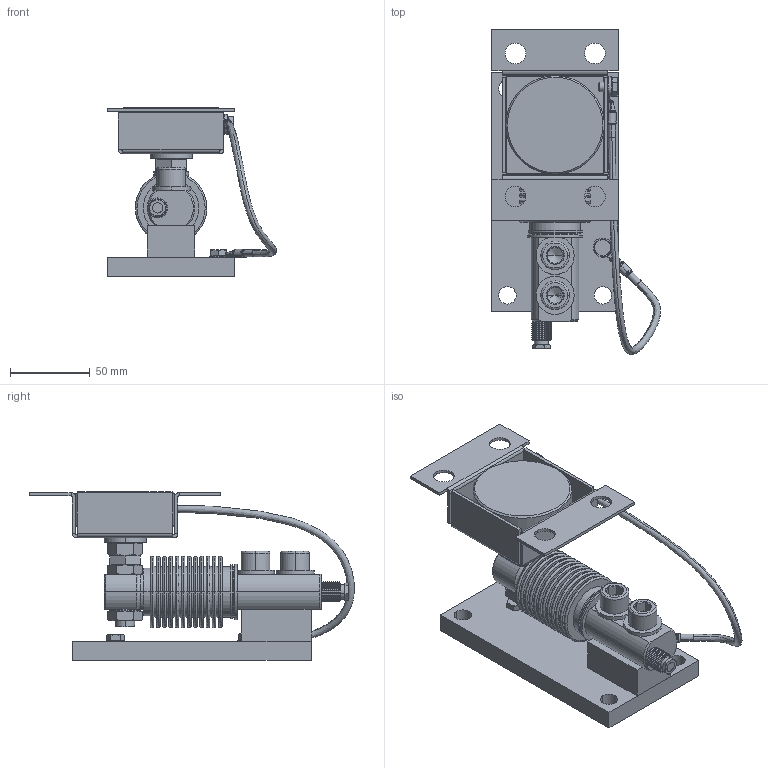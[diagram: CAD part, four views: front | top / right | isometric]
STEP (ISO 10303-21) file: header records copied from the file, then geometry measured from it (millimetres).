
FILE_DESCRIPTION((''),'1');
FILE_NAME('LMLAF_zinc-plated.step','2021-03-09T08:19:33',(''),(''),'','','');
FILE_SCHEMA(('AUTOMOTIVE_DESIGN { 1 0 10303 214 1 1 1 1 }'));
Products named in the file (26): LMLAF zinc-plated; LMLAF part 03; LMLAF part 04; LMLAF part 06; LMLAF cable 01; LMLAF part 07; LMLAF cable 02; LMLAF screw 01; LMLAF screw 02; LMLAF part 08; LMLAF part 09; LMLAF nut 01; LMLAF part 10; LMLAF base 01; LMLAF screw 03; LMLAF screw 04; LMLAF nut 03; LMLAF load cell 01; LMLAF body 01; LMLAF cable gland 01; LMLAF screw 05; LMLAF part 11; LMLAF screw 06; LMLAF part 12
Assembly tree (32 placements, depth 4):
  LMLAF zinc-plated
    LMLAF zinc-plated
    LMLAF part 07
      LMLAF part 03
        LMLAF part 04
        LMLAF part 06
        LMLAF cable 01
      LMLAF cable 02
      LMLAF part 03
        LMLAF part 04
        LMLAF part 06
        LMLAF cable 01
    LMLAF screw 01  x2
    LMLAF screw 02
    LMLAF part 08
    LMLAF part 09
      LMLAF nut 01
      LMLAF part 10
      LMLAF base 01
    LMLAF screw 03  x2
    LMLAF screw 04  x2
    LMLAF nut 03  x2
    LMLAF load cell 01
      LMLAF body 01
      LMLAF cable gland 01
    LMLAF screw 05
    LMLAF part 11
    LMLAF screw 06
    LMLAF part 12
Bounding box: 106.29 x 204.19 x 106 mm (x, y, z)
Volume: 399393 mm3; surface area: 153302.6 mm2
Topology: 26 solids, 32 shells, 1036 faces, 2462 edges, 1517 vertices
Faces by surface type: plane 328, cylinder 304, cone 210, torus 114, bspline 76, extrusion 4
Entity records: 31251 total; most frequent: CARTESIAN_POINT 11823, DIRECTION 4179, ORIENTED_EDGE 3732, EDGE_CURVE 1882, AXIS2_PLACEMENT_3D 1710, VERTEX_POINT 1164, EDGE_LOOP 902, CIRCLE 896
